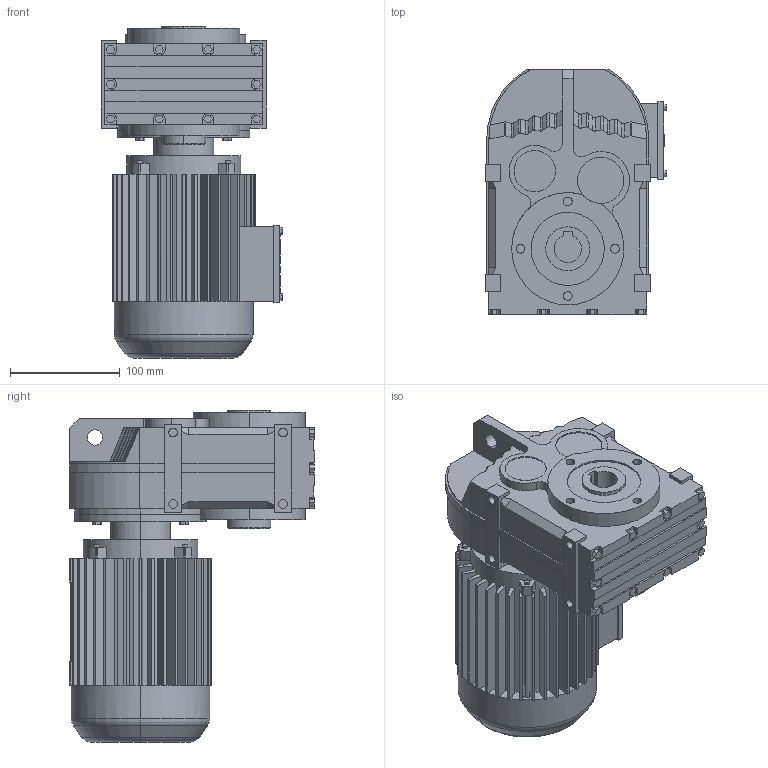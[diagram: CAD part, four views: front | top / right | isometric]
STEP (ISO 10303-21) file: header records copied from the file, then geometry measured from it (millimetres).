
FILE_DESCRIPTION(('Open CASCADE Model'),'2;1');
FILE_NAME('Open CASCADE Shape Model','2021-07-14T17:16:11',('Author'),( 'Open CASCADE'),'Open CASCADE STEP processor 6.3','Open CASCADE 6.3' ,'Unknown');
FILE_SCHEMA(('AUTOMOTIVE_DESIGN_CC2 { 1 2 10303 214 -1 1 5 4 }'));
Length unit declared in the file: millimetre
Products named in the file (4): 1_FA27-Y63S; FA27‵157_27.step; 萇儂_120.step; す瑩諾陑粣F_27.step
Assembly tree (3 placements, depth 2):
  1_FA27-Y63S
    FA27‵157_27.step
    萇儂_120.step
    す瑩諾陑粣F_27.step
Bounding box: 165 x 223.7 x 302 mm (x, y, z)
Volume: 4538660.9 mm3; surface area: 387994.2 mm2
Topology: 3 solids, 3 shells, 769 faces, 2039 edges, 1326 vertices
Faces by surface type: plane 562, cylinder 185, bspline 16, torus 4, cone 2
Entity records: 51408 total; most frequent: CARTESIAN_POINT 12180, DIRECTION 6889, ORIENTED_EDGE 4078, PCURVE 4078, DEFINITIONAL_REPRESENTATION 4078, LINE 3933, VECTOR 3933, EDGE_CURVE 2039
